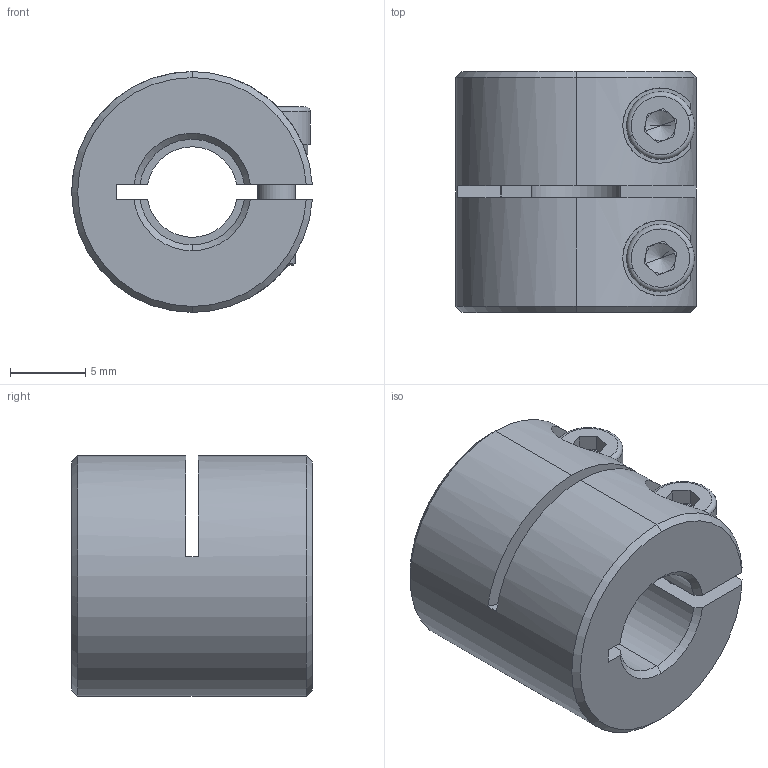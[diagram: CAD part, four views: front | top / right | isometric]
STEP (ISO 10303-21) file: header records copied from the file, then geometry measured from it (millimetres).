
FILE_DESCRIPTION (( 'STEP AP203' ), '1' );
FILE_NAME ('LL-B-D16L16-6-7.STEP', '2021-11-03T02:45:03', ( '' ), ( '' ), 'SwSTEP 2.0', 'SolidWorks 2018', '' );
FILE_SCHEMA (( 'CONFIG_CONTROL_DESIGN' ));
Length unit declared in the file: millimetre
Products named in the file (1): LL-B-D16L16-6-7
Bounding box: 15.98 x 16 x 16 mm (x, y, z)
Volume: 2481.7 mm3; surface area: 2011.5 mm2
Topology: 1 solids, 1 shells, 121 faces, 313 edges, 196 vertices
Faces by surface type: plane 52, cylinder 45, cone 20, torus 4
Entity records: 3948 total; most frequent: CARTESIAN_POINT 879, DIRECTION 653, ORIENTED_EDGE 618, EDGE_CURVE 309, AXIS2_PLACEMENT_3D 254, VERTEX_POINT 196, VECTOR 145, LINE 145
